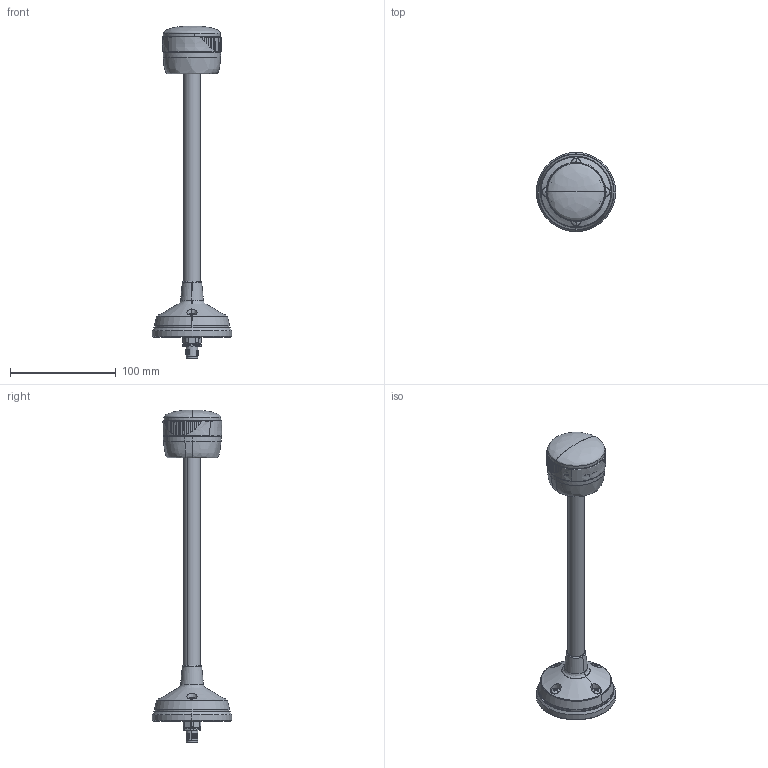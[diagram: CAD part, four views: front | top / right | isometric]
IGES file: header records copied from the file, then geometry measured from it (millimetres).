
Start section: SolidWorks IGES file using analytic representation for surfaces
Global section: file name: C:\Users\PDG_KS\OneDrive - Pfannenberg Group Holding GmbH\Home\BR50--M12\Daten\20230216_28250126020.IGS; native system: SolidWorks 2021; preprocessor: SolidWorks 2021; author: PDG_KS; date: 230216.112503; units: millimetre
Bounding box: 75 x 75 x 314.11 mm (x, y, z)
Surface area: 103606.8 mm2 (no closed solid volume)
Topology: 0 solids, 0 shells, 1466 faces, 15334 edges, 15264 vertices
Faces by surface type: bspline 1005, revolution 461
